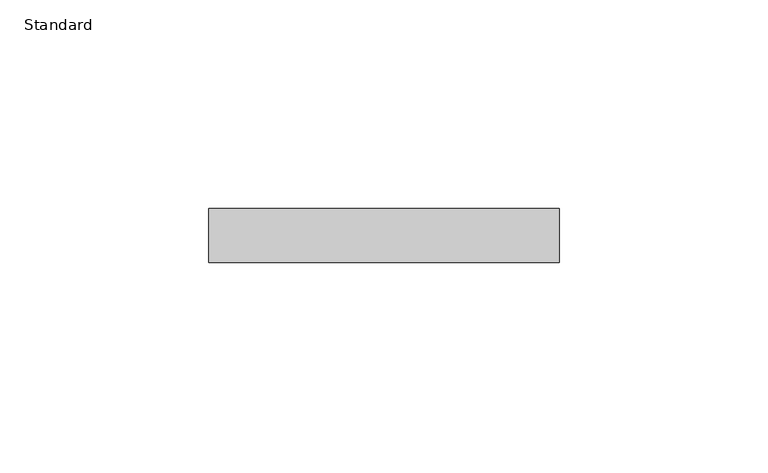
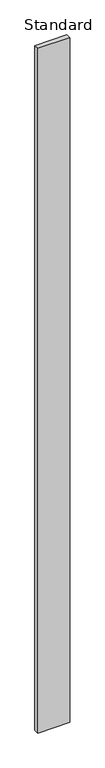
"""IFC4 building model written with IfcOpenShell, lengths in millimetres: furniture geometry, X_Partition-Compact Laminate-Duracube-Rectangular : Standard."""

from ifc_helpers import new_model, si_unit, origin, origin_with_axes, place, context, project, spatial, polyline, outline, extrude, source, transform, mapped, element, save


def standard_accb4681(model_context):
    return source(origin(), model_context, "Body", "SweptSolid", [
        extrude(outline(polyline([(86.7003264, 0.0), (86.7003264, -13.0), (2.7003264, -13.0), (2.7003264, 0.0), (86.7003264, 0.0)])), origin_with_axes(), (0.0, 0.0, 1.0), 1900.0),
    ])


if __name__ == "__main__":
    model = new_model("IFC4")
    model_context = context("Model", 3, world=origin())
    ifc_project = project(units=[si_unit("LENGTHUNIT", "METRE", prefix="MILLI")], contexts=[model_context])
    site = spatial("IfcSite", under=ifc_project)
    building = spatial("IfcBuilding", under=site)
    placement = place(None, origin())
    standard_shape = standard_accb4681(model_context)
    element("IfcFurniture", 1, ObjectType="X_Partition-Compact Laminate-Duracube-Rectangular : Standard", at=placement, inside=building, context=model_context, shape_type="MappedRepresentation", body=[
        mapped(standard_shape, transform((0.0, 0.0, 0.0), x_axis=(1.0, 0.0, 0.0), y_axis=(0.0, 1.0, 0.0), z_axis=(0.0, 0.0, 1.0))),
    ])
    save(model, "model.ifc")
